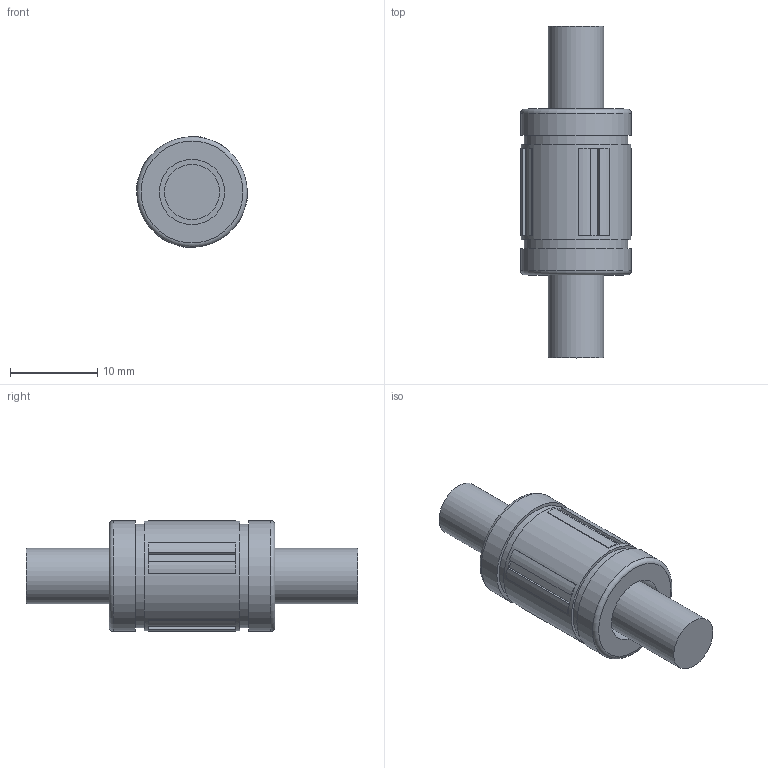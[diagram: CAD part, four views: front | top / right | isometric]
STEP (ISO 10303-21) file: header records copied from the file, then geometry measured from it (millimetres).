
FILE_DESCRIPTION((''),'2;1');
FILE_NAME('D:\STEP\SUPER\LMBS\LMBS04.stp','2013-02-14T08:03:40',('user2'),(''),'Autodesk Inventor 2012','Autodesk Inventor 2012','');
FILE_SCHEMA(('AUTOMOTIVE_DESIGN { 1 0 10303 214 1 1 1 1 }'));
Length unit declared in the file: millimetre
Products named in the file (1): LMBS04
Bounding box: 12.7 x 38.1 x 12.7 mm (x, y, z)
Volume: 2821.4 mm3; surface area: 1893 mm2
Topology: 1 solids, 1 shells, 73 faces, 159 edges, 100 vertices
Faces by surface type: plane 54, cylinder 17, torus 2
Full cylindrical faces by diameter (mm): 6.35 x2, 7.5 x2, 11.9 x2, 12.525 x1, 12.7 x2
Entity records: 1984 total; most frequent: DIRECTION 356, CARTESIAN_POINT 322, ORIENTED_EDGE 296, EDGE_CURVE 148, AXIS2_PLACEMENT_3D 134, VERTEX_POINT 100, EDGE_LOOP 96, VECTOR 88
